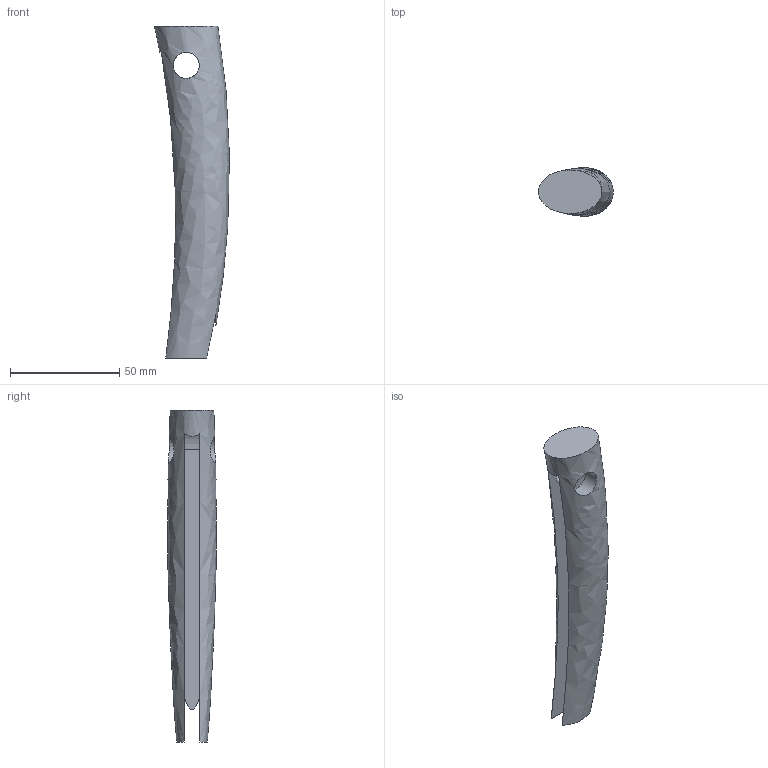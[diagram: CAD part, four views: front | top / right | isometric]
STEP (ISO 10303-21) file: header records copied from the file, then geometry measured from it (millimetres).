
FILE_DESCRIPTION(('Open CASCADE Model'),'2;1');
FILE_NAME('Q4-204','2026-10-08T13:26:14',('Author'),('Open CASCADE'), 'Open CASCADE STEP processor 8.0','build123d','Unknown');
FILE_SCHEMA(('AUTOMOTIVE_DESIGN { 1 0 10303 214 1 1 1 1 }'));
Length unit declared in the file: millimetre
Products named in the file (1): Q4-204
Bounding box: 34.29 x 22.34 x 152 mm (x, y, z)
Volume: 39187.8 mm3; surface area: 17338.7 mm2
Topology: 1 solids, 1 shells, 10 faces, 24 edges, 16 vertices
Faces by surface type: plane 6, cylinder 3, bspline 1
Full cylindrical faces by diameter (mm): 12 x2
Entity records: 2004 total; most frequent: CARTESIAN_POINT 1552, DIRECTION 62, ORIENTED_EDGE 48, PCURVE 48, DEFINITIONAL_REPRESENTATION 48, B_SPLINE_CURVE_WITH_KNOTS 34, LINE 30, VECTOR 30
